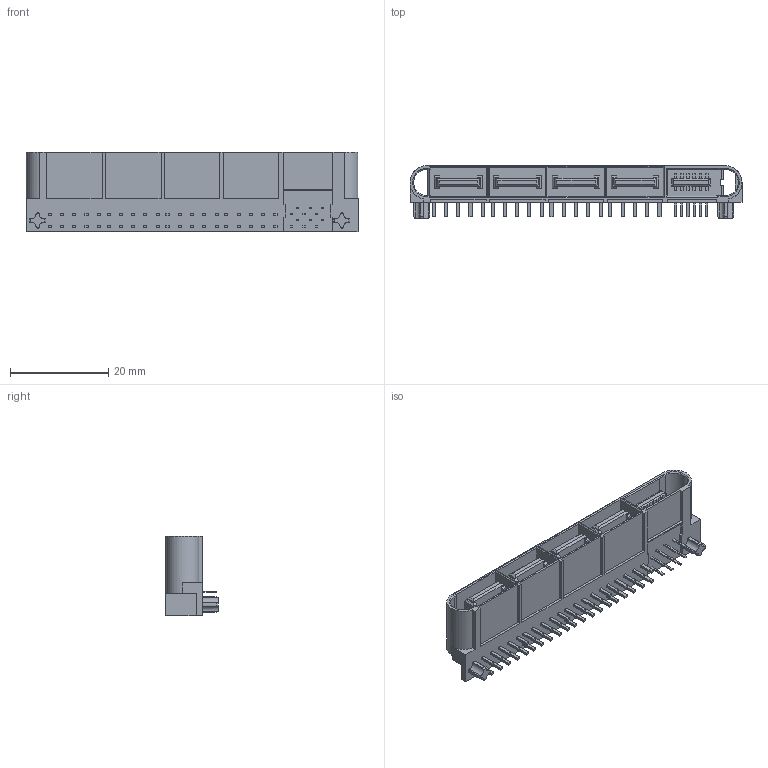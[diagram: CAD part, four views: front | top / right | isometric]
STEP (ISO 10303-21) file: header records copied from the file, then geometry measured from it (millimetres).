
FILE_DESCRIPTION((''),'2;1');
FILE_NAME('459858413','2020-10-29T',('me'),(''),'PRO/ENGINEER BY PARAMETRIC TECHNOLOGY CORPORATION, 2016010','PRO/ENGINEER BY PARAMETRIC TECHNOLOGY CORPORATION, 2016010','');
FILE_SCHEMA(('CONFIG_CONTROL_DESIGN'));
Length unit declared in the file: millimetre
Products named in the file (1): 459858413
Bounding box: 67.66 x 10.74 x 16.3 mm (x, y, z)
Volume: 4504.7 mm3; surface area: 6821.9 mm2
Topology: 1 solids, 1 shells, 788 faces, 2223 edges, 1498 vertices
Faces by surface type: plane 732, cylinder 46, cone 10
Entity records: 25076 total; most frequent: CARTESIAN_POINT 4472, ORIENTED_EDGE 4230, DIRECTION 4011, EDGE_CURVE 2115, VECTOR 1957, LINE 1957, VERTEX_POINT 1390, AXIS2_PLACEMENT_3D 1027
